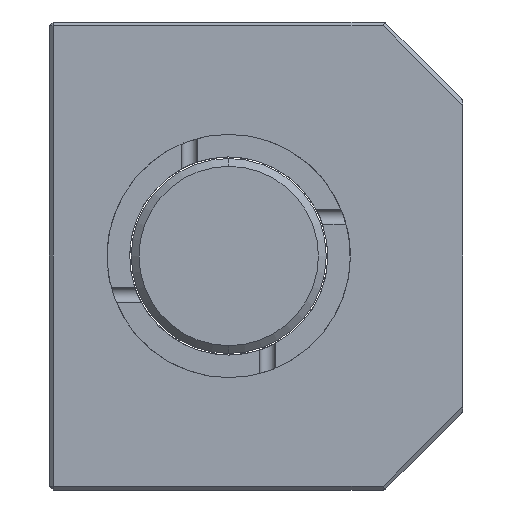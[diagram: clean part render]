
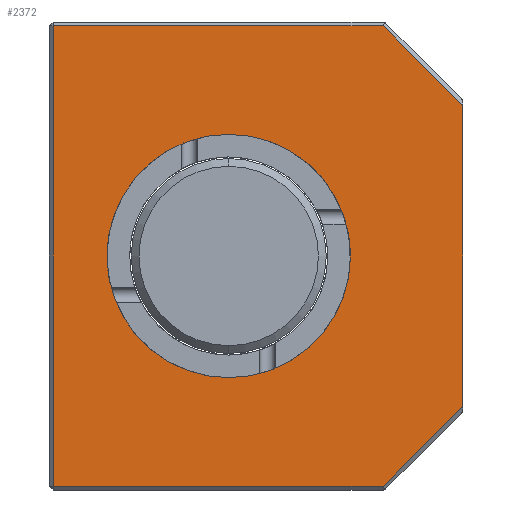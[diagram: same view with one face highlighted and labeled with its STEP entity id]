
A CAD part, left-side view. The second image highlights one B-rep face of the part: STEP entity #2372.
In plain terms, the highlighted planar face has unit normal (-1, 0, 0).
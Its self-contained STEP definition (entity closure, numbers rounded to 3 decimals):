
#39 = ORIENTED_EDGE ( 'NONE', *, *, #1261, .T. ) ;
#158 = ORIENTED_EDGE ( 'NONE', *, *, #962, .T. ) ;
#175 = VERTEX_POINT ( 'NONE', #2545 ) ;
#292 = VECTOR ( 'NONE', #2607, 1000. ) ;
#307 = EDGE_CURVE ( 'NONE', #2357, #175, #2259, .T. ) ;
#371 = PLANE ( 'NONE',  #414 ) ;
#414 = AXIS2_PLACEMENT_3D ( 'NONE', #990, #2758, #1450 ) ;
#417 = VECTOR ( 'NONE', #481, 1000. ) ;
#473 = VERTEX_POINT ( 'NONE', #1654 ) ;
#481 = DIRECTION ( 'NONE',  ( 0., -1., 0. ) ) ;
#482 = ORIENTED_EDGE ( 'NONE', *, *, #1964, .T. ) ;
#490 = CARTESIAN_POINT ( 'NONE',  ( 0., -26.543, 29.5 ) ) ;
#563 = LINE ( 'NONE', #803, #1805 ) ;
#666 = VERTEX_POINT ( 'NONE', #1136 ) ;
#700 = ORIENTED_EDGE ( 'NONE', *, *, #2795, .T. ) ;
#733 = EDGE_CURVE ( 'NONE', #2374, #2699, #1516, .T. ) ;
#763 = CARTESIAN_POINT ( 'NONE',  ( 0., -6.75, 0. ) ) ;
#786 = CARTESIAN_POINT ( 'NONE',  ( 0., -6.75, -15.6 ) ) ;
#803 = CARTESIAN_POINT ( 'NONE',  ( 0., 15.75, 0. ) ) ;
#806 = VECTOR ( 'NONE', #1328, 1000. ) ;
#851 = DIRECTION ( 'NONE',  ( 1., 0., 0. ) ) ;
#910 = CARTESIAN_POINT ( 'NONE',  ( 0., -36.75, -19.293 ) ) ;
#962 = EDGE_CURVE ( 'NONE', #473, #1339, #563, .T. ) ;
#990 = CARTESIAN_POINT ( 'NONE',  ( 0., 0., 0. ) ) ;
#1054 = CARTESIAN_POINT ( 'NONE',  ( 0., -6.75, 0. ) ) ;
#1072 = LINE ( 'NONE', #1541, #806 ) ;
#1076 = CARTESIAN_POINT ( 'NONE',  ( 0., -36.75, 30. ) ) ;
#1136 = CARTESIAN_POINT ( 'NONE',  ( 0., -26.543, -29.5 ) ) ;
#1220 = CARTESIAN_POINT ( 'NONE',  ( 0., -36.75, 19.293 ) ) ;
#1232 = DIRECTION ( 'NONE',  ( 0., 0., -1. ) ) ;
#1261 = EDGE_CURVE ( 'NONE', #666, #2820, #1341, .T. ) ;
#1273 = DIRECTION ( 'NONE',  ( 0., 0., -1. ) ) ;
#1328 = DIRECTION ( 'NONE',  ( 0., 1., 0. ) ) ;
#1337 = CIRCLE ( 'NONE', #1613, 15.6 ) ;
#1339 = VERTEX_POINT ( 'NONE', #1392 ) ;
#1341 = LINE ( 'NONE', #2398, #2518 ) ;
#1392 = CARTESIAN_POINT ( 'NONE',  ( 0., 15.75, -29.5 ) ) ;
#1407 = ORIENTED_EDGE ( 'NONE', *, *, #733, .T. ) ;
#1439 = LINE ( 'NONE', #1780, #417 ) ;
#1450 = DIRECTION ( 'NONE',  ( 0., 0., -1. ) ) ;
#1476 = EDGE_CURVE ( 'NONE', #175, #2357, #1337, .T. ) ;
#1505 = FACE_OUTER_BOUND ( 'NONE', #1908, .T. ) ;
#1516 = LINE ( 'NONE', #1818, #1695 ) ;
#1541 = CARTESIAN_POINT ( 'NONE',  ( 0., 0., 29.5 ) ) ;
#1613 = AXIS2_PLACEMENT_3D ( 'NONE', #763, #2543, #1232 ) ;
#1654 = CARTESIAN_POINT ( 'NONE',  ( 0., 15.75, 29.5 ) ) ;
#1695 = VECTOR ( 'NONE', #2672, 1000. ) ;
#1746 = ORIENTED_EDGE ( 'NONE', *, *, #1476, .T. ) ;
#1780 = CARTESIAN_POINT ( 'NONE',  ( 0., 0., -29.5 ) ) ;
#1803 = AXIS2_PLACEMENT_3D ( 'NONE', #1054, #851, #1273 ) ;
#1805 = VECTOR ( 'NONE', #2764, 1000. ) ;
#1818 = CARTESIAN_POINT ( 'NONE',  ( 0., -28.021, 28.021 ) ) ;
#1908 = EDGE_LOOP ( 'NONE', ( #700, #39, #2594, #1407, #482, #158 ) ) ;
#1928 = EDGE_CURVE ( 'NONE', #2374, #2820, #2345, .T. ) ;
#1964 = EDGE_CURVE ( 'NONE', #2699, #473, #1072, .T. ) ;
#2103 = FACE_BOUND ( 'NONE', #2544, .T. ) ;
#2259 = CIRCLE ( 'NONE', #1803, 15.6 ) ;
#2345 = LINE ( 'NONE', #1076, #292 ) ;
#2357 = VERTEX_POINT ( 'NONE', #786 ) ;
#2372 = ADVANCED_FACE ( 'NONE', ( #1505, #2103 ), #371, .F. ) ;
#2374 = VERTEX_POINT ( 'NONE', #1220 ) ;
#2398 = CARTESIAN_POINT ( 'NONE',  ( 0., -36.396, -19.646 ) ) ;
#2424 = DIRECTION ( 'NONE',  ( 0., -0.707, 0.707 ) ) ;
#2518 = VECTOR ( 'NONE', #2424, 1000. ) ;
#2543 = DIRECTION ( 'NONE',  ( 1., 0., 0. ) ) ;
#2544 = EDGE_LOOP ( 'NONE', ( #1746, #2807 ) ) ;
#2545 = CARTESIAN_POINT ( 'NONE',  ( 0., -6.75, 15.6 ) ) ;
#2594 = ORIENTED_EDGE ( 'NONE', *, *, #1928, .F. ) ;
#2607 = DIRECTION ( 'NONE',  ( 0., 0., -1. ) ) ;
#2672 = DIRECTION ( 'NONE',  ( 0., 0.707, 0.707 ) ) ;
#2699 = VERTEX_POINT ( 'NONE', #490 ) ;
#2758 = DIRECTION ( 'NONE',  ( 1., 0., 0. ) ) ;
#2764 = DIRECTION ( 'NONE',  ( 0., 0., -1. ) ) ;
#2795 = EDGE_CURVE ( 'NONE', #1339, #666, #1439, .T. ) ;
#2807 = ORIENTED_EDGE ( 'NONE', *, *, #307, .T. ) ;
#2820 = VERTEX_POINT ( 'NONE', #910 ) ;
